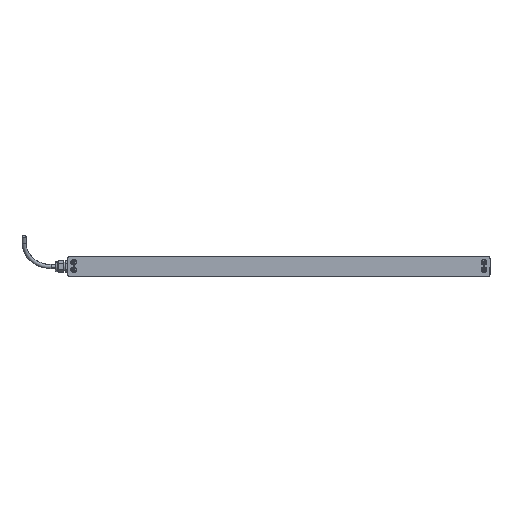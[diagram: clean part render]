
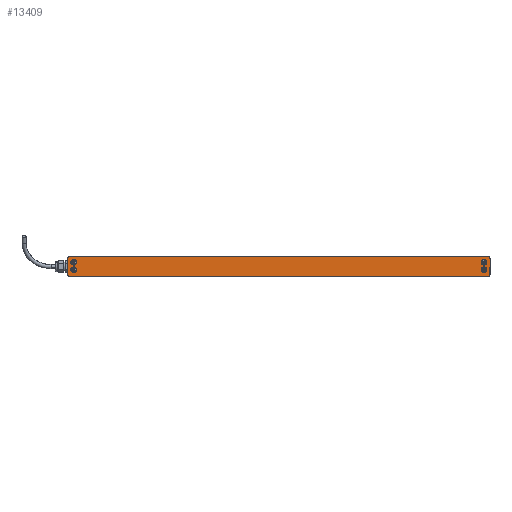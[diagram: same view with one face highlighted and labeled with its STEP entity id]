
A CAD part, left-side view. The second image highlights one B-rep face of the part: STEP entity #13409.
In plain terms, the highlighted planar face has unit normal (-1, 0, 0) as drawn and (0, 0, -1) by its records, which use the part's own axes.
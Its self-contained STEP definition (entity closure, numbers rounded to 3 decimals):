
#245 = CARTESIAN_POINT ( 'NONE',  ( -411.9, -6.3, 0. ) ) ;
#336 = PLANE ( 'NONE',  #3505 ) ;
#342 = VERTEX_POINT ( 'NONE', #13234 ) ;
#343 = CIRCLE ( 'NONE', #6979, 5.6 ) ;
#403 = CIRCLE ( 'NONE', #9426, 5.6 ) ;
#425 = AXIS2_PLACEMENT_3D ( 'NONE', #8136, #1844, #6899 ) ;
#448 = CARTESIAN_POINT ( 'NONE',  ( -414., -20., 0. ) ) ;
#575 = ORIENTED_EDGE ( 'NONE', *, *, #10324, .F. ) ;
#720 = VERTEX_POINT ( 'NONE', #245 ) ;
#723 = CIRCLE ( 'NONE', #9972, 4. ) ;
#851 = CARTESIAN_POINT ( 'NONE',  ( 414., -20., 0. ) ) ;
#1089 = EDGE_CURVE ( 'NONE', #4765, #13232, #10406, .T. ) ;
#1117 = VERTEX_POINT ( 'NONE', #5710 ) ;
#1246 = AXIS2_PLACEMENT_3D ( 'NONE', #5649, #10689, #5338 ) ;
#1285 = CARTESIAN_POINT ( 'NONE',  ( 406.3, 8.5, 0. ) ) ;
#1385 = ORIENTED_EDGE ( 'NONE', *, *, #15136, .F. ) ;
#1530 = ORIENTED_EDGE ( 'NONE', *, *, #3681, .F. ) ;
#1689 = VECTOR ( 'NONE', #12134, 1000. ) ;
#1790 = VECTOR ( 'NONE', #7698, 1000. ) ;
#1799 = EDGE_CURVE ( 'NONE', #15573, #4237, #9665, .T. ) ;
#1844 = DIRECTION ( 'NONE',  ( 0., 0., -1. ) ) ;
#2045 = DIRECTION ( 'NONE',  ( 0., 0., -1. ) ) ;
#2416 = CARTESIAN_POINT ( 'NONE',  ( 418., -16., 0. ) ) ;
#2638 = LINE ( 'NONE', #4975, #1790 ) ;
#2867 = ORIENTED_EDGE ( 'NONE', *, *, #5540, .F. ) ;
#3089 = CARTESIAN_POINT ( 'NONE',  ( 418., 16., 0. ) ) ;
#3318 = ORIENTED_EDGE ( 'NONE', *, *, #8966, .F. ) ;
#3363 = EDGE_LOOP ( 'NONE', ( #575, #15415 ) ) ;
#3402 = ORIENTED_EDGE ( 'NONE', *, *, #5356, .F. ) ;
#3505 = AXIS2_PLACEMENT_3D ( 'NONE', #5423, #12212, #8361 ) ;
#3560 = EDGE_CURVE ( 'NONE', #15835, #9802, #7516, .T. ) ;
#3681 = EDGE_CURVE ( 'NONE', #720, #15537, #4627, .T. ) ;
#3709 = ORIENTED_EDGE ( 'NONE', *, *, #9183, .F. ) ;
#3713 = ORIENTED_EDGE ( 'NONE', *, *, #8351, .F. ) ;
#4215 = ORIENTED_EDGE ( 'NONE', *, *, #3560, .F. ) ;
#4237 = VERTEX_POINT ( 'NONE', #5155 ) ;
#4336 = ORIENTED_EDGE ( 'NONE', *, *, #11862, .F. ) ;
#4419 = DIRECTION ( 'NONE',  ( 0., 0., 1. ) ) ;
#4549 = CARTESIAN_POINT ( 'NONE',  ( -406.3, -6.3, 0. ) ) ;
#4564 = FACE_BOUND ( 'NONE', #3363, .T. ) ;
#4572 = ORIENTED_EDGE ( 'NONE', *, *, #11896, .F. ) ;
#4627 = CIRCLE ( 'NONE', #14110, 5.6 ) ;
#4644 = CARTESIAN_POINT ( 'NONE',  ( -414., 20., 0. ) ) ;
#4765 = VERTEX_POINT ( 'NONE', #13564 ) ;
#4975 = CARTESIAN_POINT ( 'NONE',  ( -414., -20., 0. ) ) ;
#5143 = VERTEX_POINT ( 'NONE', #11469 ) ;
#5155 = CARTESIAN_POINT ( 'NONE',  ( -418., -16., 0. ) ) ;
#5338 = DIRECTION ( 'NONE',  ( -1., 0., 0. ) ) ;
#5356 = EDGE_CURVE ( 'NONE', #15537, #720, #403, .T. ) ;
#5423 = CARTESIAN_POINT ( 'NONE',  ( 414., 16., 0. ) ) ;
#5540 = EDGE_CURVE ( 'NONE', #8222, #5143, #7829, .T. ) ;
#5634 = AXIS2_PLACEMENT_3D ( 'NONE', #13155, #5860, #10900 ) ;
#5649 = CARTESIAN_POINT ( 'NONE',  ( 406.3, 8.5, 0. ) ) ;
#5678 = DIRECTION ( 'NONE',  ( 0., 0., 1. ) ) ;
#5710 = CARTESIAN_POINT ( 'NONE',  ( -400.7, 8.5, 0. ) ) ;
#5839 = DIRECTION ( 'NONE',  ( -1., 0., 0. ) ) ;
#5842 = CARTESIAN_POINT ( 'NONE',  ( -414., 20., 0. ) ) ;
#5860 = DIRECTION ( 'NONE',  ( 0., 0., -1. ) ) ;
#5924 = EDGE_CURVE ( 'NONE', #11184, #15753, #7305, .T. ) ;
#5995 = VERTEX_POINT ( 'NONE', #4644 ) ;
#6037 = CIRCLE ( 'NONE', #8953, 5.6 ) ;
#6091 = DIRECTION ( 'NONE',  ( 0., 0., -1. ) ) ;
#6217 = CARTESIAN_POINT ( 'NONE',  ( 400.7, 8.5, 0. ) ) ;
#6491 = CARTESIAN_POINT ( 'NONE',  ( -400.7, -6.3, 0. ) ) ;
#6568 = CARTESIAN_POINT ( 'NONE',  ( 418., -16., 0. ) ) ;
#6675 = EDGE_LOOP ( 'NONE', ( #3713, #1385 ) ) ;
#6706 = ORIENTED_EDGE ( 'NONE', *, *, #1799, .F. ) ;
#6722 = EDGE_LOOP ( 'NONE', ( #1530, #3402 ) ) ;
#6899 = DIRECTION ( 'NONE',  ( -1., 0., 0. ) ) ;
#6938 = EDGE_LOOP ( 'NONE', ( #2867, #4572 ) ) ;
#6979 = AXIS2_PLACEMENT_3D ( 'NONE', #14379, #9355, #13384 ) ;
#7050 = FACE_BOUND ( 'NONE', #6722, .T. ) ;
#7246 = AXIS2_PLACEMENT_3D ( 'NONE', #15191, #9170, #16340 ) ;
#7273 = EDGE_CURVE ( 'NONE', #15753, #15835, #12734, .T. ) ;
#7305 = CIRCLE ( 'NONE', #11247, 4. ) ;
#7516 = CIRCLE ( 'NONE', #7246, 4. ) ;
#7585 = CIRCLE ( 'NONE', #425, 5.6 ) ;
#7644 = DIRECTION ( 'NONE',  ( 0., 1., 0. ) ) ;
#7698 = DIRECTION ( 'NONE',  ( 1., 0., 0. ) ) ;
#7829 = CIRCLE ( 'NONE', #13609, 5.6 ) ;
#8136 = CARTESIAN_POINT ( 'NONE',  ( -406.3, 8.5, 0. ) ) ;
#8222 = VERTEX_POINT ( 'NONE', #6217 ) ;
#8351 = EDGE_CURVE ( 'NONE', #342, #1117, #7585, .T. ) ;
#8361 = DIRECTION ( 'NONE',  ( -1., 0., 0. ) ) ;
#8953 = AXIS2_PLACEMENT_3D ( 'NONE', #9588, #6091, #15958 ) ;
#8966 = EDGE_CURVE ( 'NONE', #11090, #11184, #2638, .T. ) ;
#9077 = DIRECTION ( 'NONE',  ( 0., 0., -1. ) ) ;
#9170 = DIRECTION ( 'NONE',  ( 0., 0., 1. ) ) ;
#9183 = EDGE_CURVE ( 'NONE', #5995, #15573, #723, .T. ) ;
#9313 = FACE_OUTER_BOUND ( 'NONE', #10573, .T. ) ;
#9355 = DIRECTION ( 'NONE',  ( 0., 0., -1. ) ) ;
#9426 = AXIS2_PLACEMENT_3D ( 'NONE', #4549, #16105, #12196 ) ;
#9456 = DIRECTION ( 'NONE',  ( 1., 0., 0. ) ) ;
#9570 = CARTESIAN_POINT ( 'NONE',  ( -406.3, -6.3, 0. ) ) ;
#9588 = CARTESIAN_POINT ( 'NONE',  ( 406.3, -6.3, 0. ) ) ;
#9600 = FACE_BOUND ( 'NONE', #6675, .T. ) ;
#9665 = LINE ( 'NONE', #12284, #1689 ) ;
#9802 = VERTEX_POINT ( 'NONE', #12727 ) ;
#9972 = AXIS2_PLACEMENT_3D ( 'NONE', #14355, #5678, #14524 ) ;
#10065 = DIRECTION ( 'NONE',  ( -1., 0., 0. ) ) ;
#10249 = CIRCLE ( 'NONE', #1246, 5.6 ) ;
#10324 = EDGE_CURVE ( 'NONE', #13232, #4765, #6037, .T. ) ;
#10406 = CIRCLE ( 'NONE', #5634, 5.6 ) ;
#10480 = ORIENTED_EDGE ( 'NONE', *, *, #7273, .F. ) ;
#10573 = EDGE_LOOP ( 'NONE', ( #4215, #10480, #11970, #3318, #4336, #6706, #3709, #13608 ) ) ;
#10580 = EDGE_CURVE ( 'NONE', #9802, #5995, #13365, .T. ) ;
#10689 = DIRECTION ( 'NONE',  ( 0., 0., -1. ) ) ;
#10883 = DIRECTION ( 'NONE',  ( -1., 0., 0. ) ) ;
#10900 = DIRECTION ( 'NONE',  ( -1., 0., 0. ) ) ;
#11090 = VERTEX_POINT ( 'NONE', #448 ) ;
#11184 = VERTEX_POINT ( 'NONE', #851 ) ;
#11247 = AXIS2_PLACEMENT_3D ( 'NONE', #15900, #4419, #9456 ) ;
#11469 = CARTESIAN_POINT ( 'NONE',  ( 411.9, 8.5, 0. ) ) ;
#11669 = DIRECTION ( 'NONE',  ( -1., 0., 0. ) ) ;
#11766 = FACE_BOUND ( 'NONE', #6938, .T. ) ;
#11826 = AXIS2_PLACEMENT_3D ( 'NONE', #15590, #12998, #11669 ) ;
#11839 = VECTOR ( 'NONE', #10883, 1000. ) ;
#11862 = EDGE_CURVE ( 'NONE', #4237, #11090, #16063, .T. ) ;
#11896 = EDGE_CURVE ( 'NONE', #5143, #8222, #10249, .T. ) ;
#11970 = ORIENTED_EDGE ( 'NONE', *, *, #5924, .F. ) ;
#12017 = CARTESIAN_POINT ( 'NONE',  ( -418., 16., 0. ) ) ;
#12134 = DIRECTION ( 'NONE',  ( 0., -1., 0. ) ) ;
#12196 = DIRECTION ( 'NONE',  ( -1., 0., 0. ) ) ;
#12212 = DIRECTION ( 'NONE',  ( 0., 0., -1. ) ) ;
#12284 = CARTESIAN_POINT ( 'NONE',  ( -418., -16., 0. ) ) ;
#12727 = CARTESIAN_POINT ( 'NONE',  ( 414., 20., 0. ) ) ;
#12734 = LINE ( 'NONE', #6568, #16251 ) ;
#12998 = DIRECTION ( 'NONE',  ( 0., 0., 1. ) ) ;
#13155 = CARTESIAN_POINT ( 'NONE',  ( 406.3, -6.3, 0. ) ) ;
#13232 = VERTEX_POINT ( 'NONE', #15165 ) ;
#13234 = CARTESIAN_POINT ( 'NONE',  ( -411.9, 8.5, 0. ) ) ;
#13365 = LINE ( 'NONE', #5842, #11839 ) ;
#13384 = DIRECTION ( 'NONE',  ( -1., 0., 0. ) ) ;
#13409 = ADVANCED_FACE ( 'NONE', ( #11766, #4564, #9600, #7050, #9313 ), #336, .T. ) ;
#13564 = CARTESIAN_POINT ( 'NONE',  ( 411.9, -6.3, 0. ) ) ;
#13608 = ORIENTED_EDGE ( 'NONE', *, *, #10580, .F. ) ;
#13609 = AXIS2_PLACEMENT_3D ( 'NONE', #1285, #9077, #10065 ) ;
#14110 = AXIS2_PLACEMENT_3D ( 'NONE', #9570, #2045, #5839 ) ;
#14355 = CARTESIAN_POINT ( 'NONE',  ( -414., 16., 0. ) ) ;
#14379 = CARTESIAN_POINT ( 'NONE',  ( -406.3, 8.5, 0. ) ) ;
#14524 = DIRECTION ( 'NONE',  ( -1., 0., 0. ) ) ;
#15136 = EDGE_CURVE ( 'NONE', #1117, #342, #343, .T. ) ;
#15165 = CARTESIAN_POINT ( 'NONE',  ( 400.7, -6.3, 0. ) ) ;
#15191 = CARTESIAN_POINT ( 'NONE',  ( 414., 16., 0. ) ) ;
#15415 = ORIENTED_EDGE ( 'NONE', *, *, #1089, .F. ) ;
#15537 = VERTEX_POINT ( 'NONE', #6491 ) ;
#15573 = VERTEX_POINT ( 'NONE', #12017 ) ;
#15590 = CARTESIAN_POINT ( 'NONE',  ( -414., -16., 0. ) ) ;
#15753 = VERTEX_POINT ( 'NONE', #2416 ) ;
#15835 = VERTEX_POINT ( 'NONE', #3089 ) ;
#15900 = CARTESIAN_POINT ( 'NONE',  ( 414., -16., 0. ) ) ;
#15958 = DIRECTION ( 'NONE',  ( -1., 0., 0. ) ) ;
#16063 = CIRCLE ( 'NONE', #11826, 4. ) ;
#16105 = DIRECTION ( 'NONE',  ( 0., 0., -1. ) ) ;
#16251 = VECTOR ( 'NONE', #7644, 1000. ) ;
#16340 = DIRECTION ( 'NONE',  ( -1., 0., 0. ) ) ;
